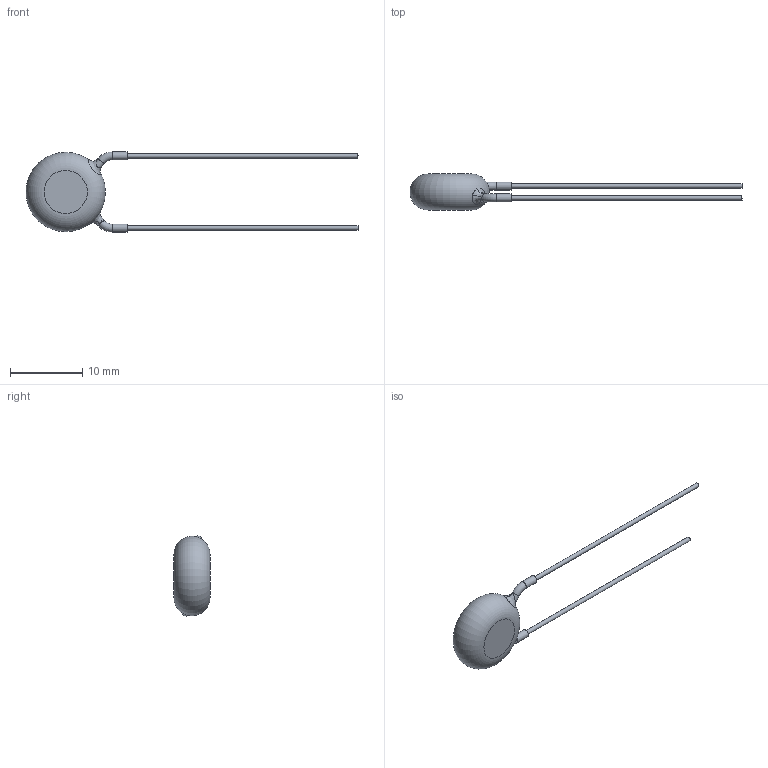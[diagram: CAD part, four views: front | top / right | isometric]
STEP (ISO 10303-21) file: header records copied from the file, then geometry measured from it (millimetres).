
FILE_DESCRIPTION((''),'2;1');
FILE_NAME('I:\Marketing\M6t1\3D-Models\Zchng-Werk-3\Upload for homepage\BCC\AY2\Y5U-10mm\AY2332M41Y5US63L0\AY2332M41Y5US63L0.stp','2015-09-09T08:53:22',(''),(''),'Autodesk Inventor 2013','Autodesk Inventor 2013','');
FILE_SCHEMA(('AUTOMOTIVE_DESIGN { 1 0 10303 214 1 1 1 1 }'));
Length unit declared in the file: centimetre
Products named in the file (1): AY2332M41Y5US63L0
Bounding box: 46 x 5 x 11.1 mm (x, y, z)
Volume: 420.5 mm3; surface area: 437.4 mm2
Topology: 1 solids, 1 shells, 19 faces, 39 edges, 26 vertices
Faces by surface type: cylinder 6, plane 6, bspline 4, torus 3
Full cylindrical faces by diameter (mm): 0.6 x2, 1.1 x2
Entity records: 781 total; most frequent: CARTESIAN_POINT 390, DIRECTION 64, ORIENTED_EDGE 56, AXIS2_PLACEMENT_3D 32, EDGE_LOOP 30, EDGE_CURVE 28, VERTEX_POINT 22, STYLED_ITEM 20
